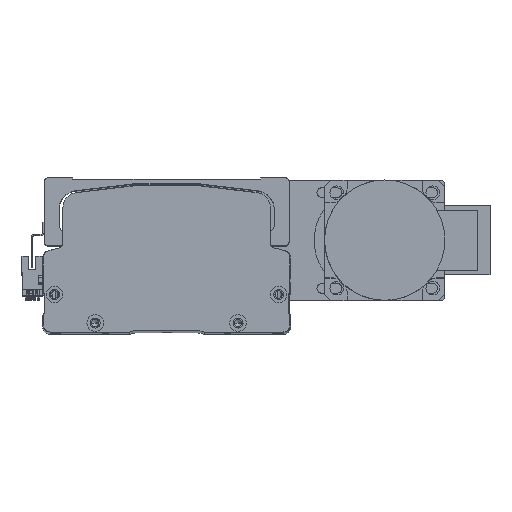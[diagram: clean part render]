
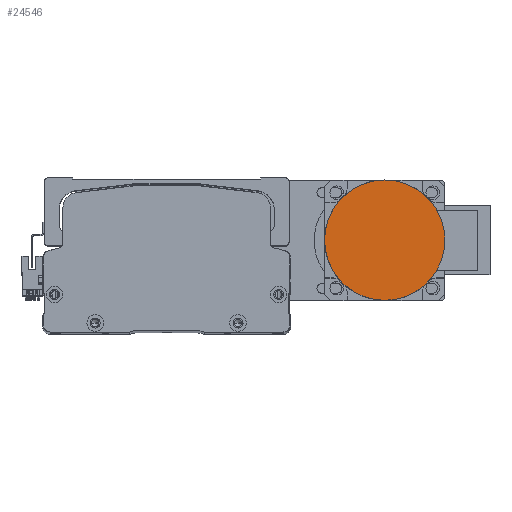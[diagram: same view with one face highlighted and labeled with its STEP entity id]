
A CAD part, top view. The second image highlights one B-rep face of the part: STEP entity #24546.
In plain terms, the highlighted planar face has unit normal (0, 0, 1) as drawn and (0, -1, 0) by its records, which use the part's own axes.
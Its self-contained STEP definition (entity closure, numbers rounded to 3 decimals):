
#864 = AXIS2_PLACEMENT_3D ( 'NONE', #17353, #50016, #22072 ) ;
#2322 = DIRECTION ( 'NONE',  ( 0., -1., 0. ) ) ;
#2890 = AXIS2_PLACEMENT_3D ( 'NONE', #32690, #32466, #42054 ) ;
#8528 = ORIENTED_EDGE ( 'NONE', *, *, #58309, .T. ) ;
#9428 = PLANE ( 'NONE',  #2890 ) ;
#9838 = VERTEX_POINT ( 'NONE', #56926 ) ;
#10425 = EDGE_LOOP ( 'NONE', ( #8528, #38238 ) ) ;
#10977 = VERTEX_POINT ( 'NONE', #20452 ) ;
#13416 = EDGE_CURVE ( 'NONE', #10977, #9838, #35600, .T. ) ;
#17353 = CARTESIAN_POINT ( 'NONE',  ( 0., -27., 0. ) ) ;
#20452 = CARTESIAN_POINT ( 'NONE',  ( 0., -27., 40. ) ) ;
#22072 = DIRECTION ( 'NONE',  ( 0., 0., -1. ) ) ;
#23294 = CIRCLE ( 'NONE', #864, 40. ) ;
#24546 = ADVANCED_FACE ( 'NONE', ( #40489 ), #9428, .F. ) ;
#30266 = CARTESIAN_POINT ( 'NONE',  ( 0., -27., 0. ) ) ;
#32466 = DIRECTION ( 'NONE',  ( 0., 1., 0. ) ) ;
#32690 = CARTESIAN_POINT ( 'NONE',  ( 0., -27., 0. ) ) ;
#35003 = DIRECTION ( 'NONE',  ( 0., 0., -1. ) ) ;
#35600 = CIRCLE ( 'NONE', #45742, 40. ) ;
#38238 = ORIENTED_EDGE ( 'NONE', *, *, #13416, .T. ) ;
#40489 = FACE_OUTER_BOUND ( 'NONE', #10425, .T. ) ;
#42054 = DIRECTION ( 'NONE',  ( 0., 0., 1. ) ) ;
#45742 = AXIS2_PLACEMENT_3D ( 'NONE', #30266, #2322, #35003 ) ;
#50016 = DIRECTION ( 'NONE',  ( 0., -1., 0. ) ) ;
#56926 = CARTESIAN_POINT ( 'NONE',  ( 0., -27., -40. ) ) ;
#58309 = EDGE_CURVE ( 'NONE', #9838, #10977, #23294, .T. ) ;
